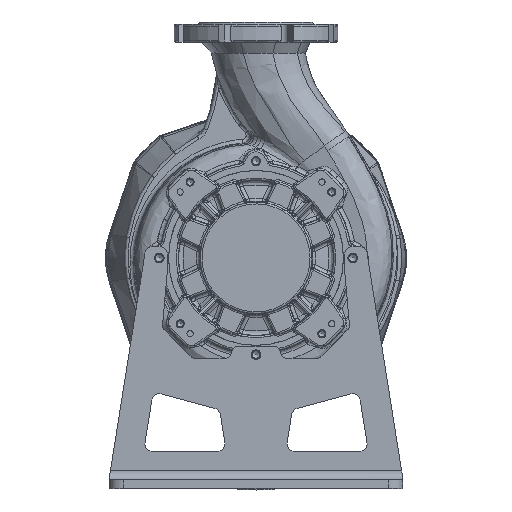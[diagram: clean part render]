
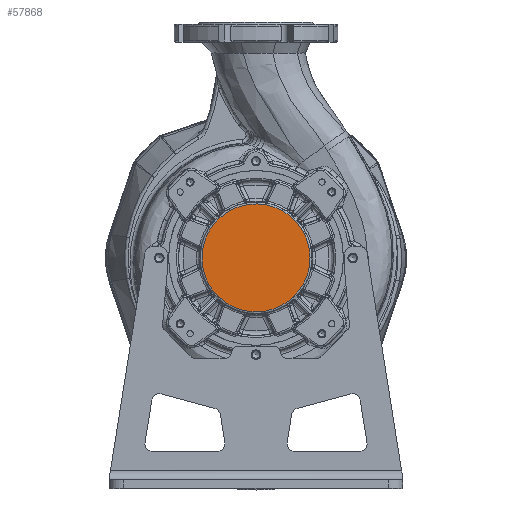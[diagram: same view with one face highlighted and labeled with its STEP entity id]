
A CAD part, top view. The second image highlights one B-rep face of the part: STEP entity #57868.
In plain terms, the highlighted planar face has unit normal (0, 0, 1).
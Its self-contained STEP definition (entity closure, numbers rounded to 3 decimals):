
#12909 = CARTESIAN_POINT ( 'NONE',  ( -51.326, 183.826, 18. ) ) ;
#15235 = CARTESIAN_POINT ( 'NONE',  ( 51.326, 286.478, 18. ) ) ;
#42549 = CARTESIAN_POINT ( 'NONE',  ( 153.978, 183.826, 18. ) ) ;
#46367 = VERTEX_POINT ( 'NONE', #110395 ) ;
#46759 = FACE_OUTER_BOUND ( 'NONE', #56539, .T. ) ;
#55254 = CARTESIAN_POINT ( 'NONE',  ( 51.326, 81.174, 18. ) ) ;
#56539 = EDGE_LOOP ( 'NONE', ( #75999 ) ) ;
#57868 = ADVANCED_FACE ( 'NONE', ( #46759 ), #72708, .F. ) ;
#72708 = PLANE ( 'NONE',  #129591 ) ;
#75999 = ORIENTED_EDGE ( 'NONE', *, *, #170222, .F. ) ;
#83009 = CARTESIAN_POINT ( 'NONE',  ( -153.978, 81.174, 18. ) ) ;
#101043 = CARTESIAN_POINT ( 'NONE',  ( -53.033, 79.467, 18. ) ) ;
#105272 = DIRECTION ( 'NONE',  ( 0., 0., -1. ) ) ;
#110395 = CARTESIAN_POINT ( 'NONE',  ( -51.326, 183.826, 18. ) ) ;
#116717 =( BOUNDED_CURVE ( )  B_SPLINE_CURVE ( 3, ( #12909, #15235, #42549, #55254, #151890, #83009, #151305 ),
 .UNSPECIFIED., .T., .F. ) 
 B_SPLINE_CURVE_WITH_KNOTS ( ( 4, 3, 4 ),
 ( 0., 0.5, 1. ),
 .UNSPECIFIED. ) 
 CURVE ( )  GEOMETRIC_REPRESENTATION_ITEM ( )  RATIONAL_B_SPLINE_CURVE ( ( 1., 0.333, 0.333, 1., 0.333, 0.333, 1. ) ) 
 REPRESENTATION_ITEM ( '' )  );
#129591 = AXIS2_PLACEMENT_3D ( 'NONE', #101043, #105272, #160262 ) ;
#151305 = CARTESIAN_POINT ( 'NONE',  ( -51.326, 183.826, 18. ) ) ;
#151890 = CARTESIAN_POINT ( 'NONE',  ( -51.326, -21.478, 18. ) ) ;
#160262 = DIRECTION ( 'NONE',  ( -0.707, 0.707, 0. ) ) ;
#170222 = EDGE_CURVE ( 'NONE', #46367, #46367, #116717, .T. ) ;
